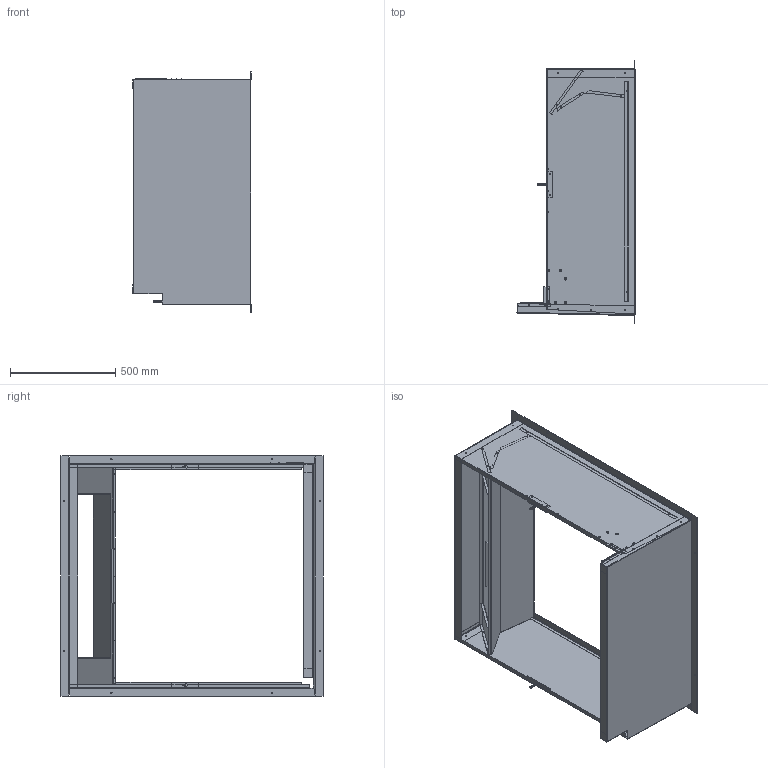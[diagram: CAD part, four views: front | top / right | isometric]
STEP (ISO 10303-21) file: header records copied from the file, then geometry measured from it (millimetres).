
FILE_DESCRIPTION (( 'STEP AP203' ), '1' );
FILE_NAME ('QWS48A-16.STEP', '2014-03-18T10:32:19', ( 'generic' ), ( 'Hewlett-Packard Company' ), 'SwSTEP 2.0', 'SolidWorks 2014', '' );
FILE_SCHEMA (( 'CONFIG_CONTROL_DESIGN' ));
Length unit declared in the file: inch
Products named in the file (11): 1012-036; 110-071; 110-070; 136-450; 130-128; 104-988; 120-348; 104-1060; QWS48A-16; 110-082; 110-083
Assembly tree (13 placements, depth 2):
  QWS48A-16
    104-988  x2
    104-1060  x2
    110-082
    110-083
    1012-036  x2
    110-071
    110-070
    136-450
    130-128
    120-348
Bounding box: 560.28 x 1244.15 x 1140.39 mm (x, y, z)
Volume: 3632970 mm3; surface area: 6265316.2 mm2
Topology: 13 solids, 13 shells, 1084 faces, 2578 edges, 1512 vertices
Faces by surface type: plane 443, cylinder 329, cone 236, bspline 36, sphere 20, torus 20
Entity records: 29139 total; most frequent: CARTESIAN_POINT 6294, DIRECTION 4586, ORIENTED_EDGE 4390, EDGE_CURVE 2195, AXIS2_PLACEMENT_3D 1653, VERTEX_POINT 1303, LINE 1280, VECTOR 1280
